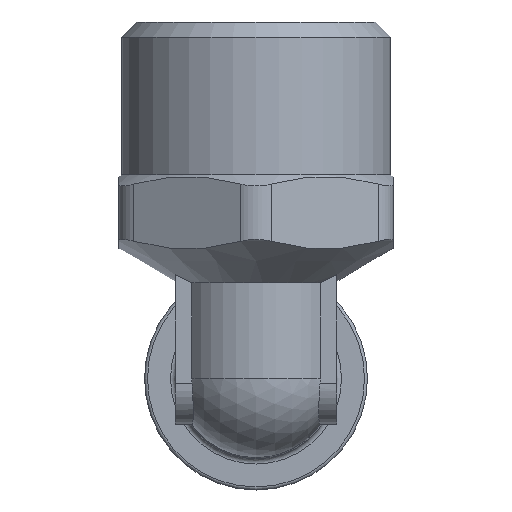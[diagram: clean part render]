
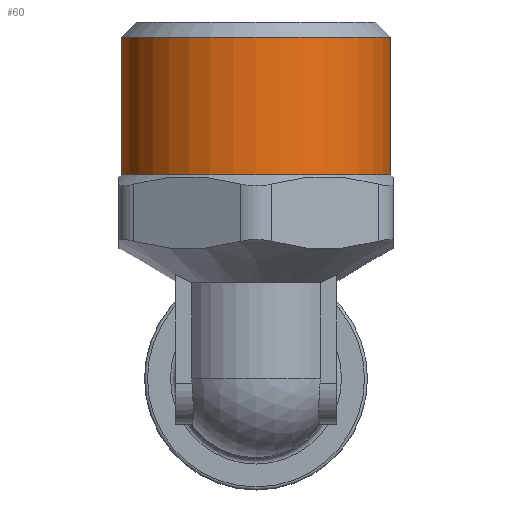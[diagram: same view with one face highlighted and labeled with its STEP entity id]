
A CAD part, front view. The second image highlights one B-rep face of the part: STEP entity #60.
In plain terms, the highlighted cylindrical face has radius 13.22 mm (diameter 26.441 mm), a full revolution.
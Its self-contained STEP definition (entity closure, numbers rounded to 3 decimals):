
#60=ADVANCED_FACE('',(#514,#516),#518,.T.);
#514=FACE_OUTER_BOUND('',#515,.T.);
#515=EDGE_LOOP('',(#2960));
#516=FACE_OUTER_BOUND('',#517,.T.);
#517=EDGE_LOOP('',(#2961));
#518=CYLINDRICAL_SURFACE('',#519,13.221);
#519=AXIS2_PLACEMENT_3D('',#520,#521,#522);
#520=CARTESIAN_POINT('',(0.,0.,20.));
#521=DIRECTION('',(0.,0.,1.));
#522=DIRECTION('',(0.,1.,0.));
#2960=ORIENTED_EDGE('',*,*,#5049,.F.);
#2961=ORIENTED_EDGE('',*,*,#5051,.T.);
#5049=EDGE_CURVE('',#5906,#5906,#5907,.T.);
#5051=EDGE_CURVE('',#5910,#5910,#5911,.T.);
#5906=VERTEX_POINT('',#7374);
#5907=CIRCLE('',#7375,13.221);
#5910=VERTEX_POINT('',#7384);
#5911=CIRCLE('',#7385,13.221);
#7374=CARTESIAN_POINT('',(0.,13.221,33.5));
#7375=AXIS2_PLACEMENT_3D('',#7376,#7377,#7378);
#7376=CARTESIAN_POINT('',(0.,0.,33.5));
#7377=DIRECTION('',(0.,0.,1.));
#7378=DIRECTION('',(0.,1.,0.));
#7384=CARTESIAN_POINT('',(0.,13.221,20.));
#7385=AXIS2_PLACEMENT_3D('',#7386,#7387,#7388);
#7386=CARTESIAN_POINT('',(0.,0.,20.));
#7387=DIRECTION('',(0.,0.,1.));
#7388=DIRECTION('',(0.,1.,0.));
